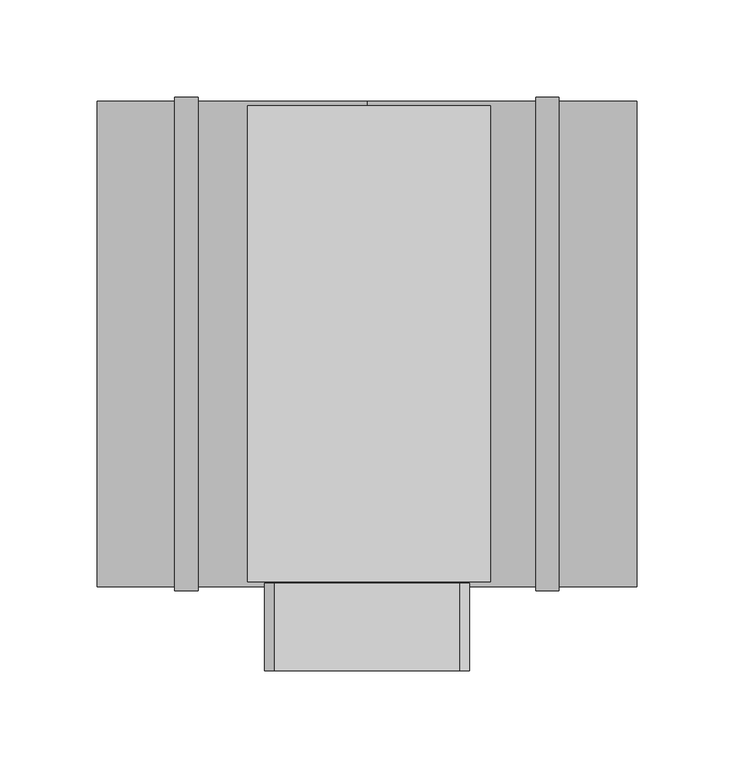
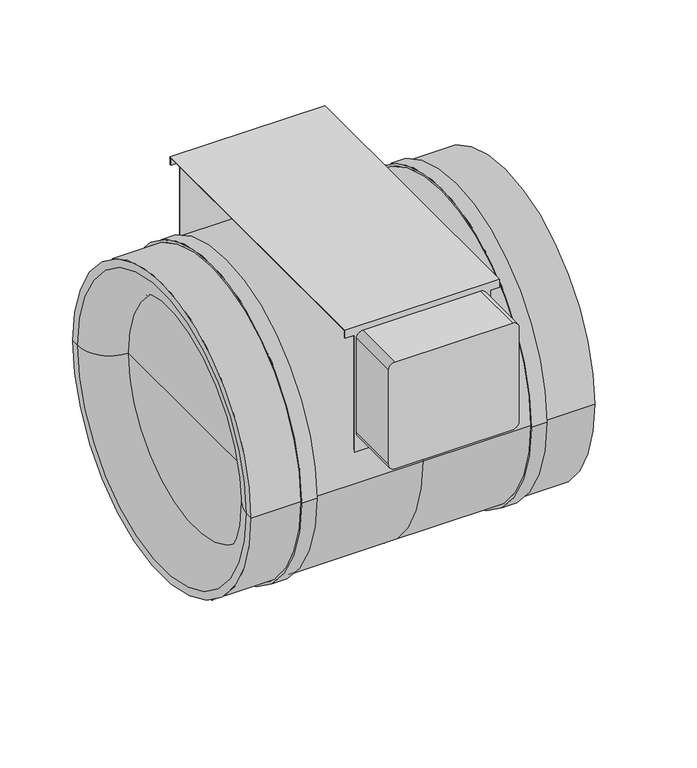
"""IFC4 building model written with IfcOpenShell, lengths in millimetres: unitary equipment geometry, VE-Wentylator-ParaForma-Harmann-JETTEC-Nawiewny : 250/1700S."""

from ifc_helpers import new_model, si_unit, point, frame, frame_2d, origin, place, context, project, spatial, polyline, circle_curve, ellipse_curve, trimmed, segment, composite_curve, outline, extrude, source, transform, mapped, element, save
from ifc_brep_helpers import plane_surface, cylinder_surface, revolved_surface, advanced_brep


def unitary_equipment_61d8eaaf(model_context):
    return source(origin(), model_context, "Body", "SolidModel", [
        extrude(outline(composite_curve([segment(polyline([(36.6, -47.7), (36.6, 47.7)]), True, "CONTINUOUS"), segment(trimmed(circle_curve(frame_2d((41.6, 47.7)), 5.0), [point((36.6, 47.7))], [point((41.6, 52.7))], False, "CARTESIAN"), True, "CONTINUOUS"), segment(polyline([(41.6, 52.7), (122.6, 52.7)]), True, "CONTINUOUS"), segment(trimmed(circle_curve(frame_2d((122.6, 47.7)), 5.0), [point((122.6, 52.7))], [point((127.6, 47.7))], False, "CARTESIAN"), True, "CONTINUOUS"), segment(polyline([(127.6, 47.7), (127.6, -47.7)]), True, "CONTINUOUS"), segment(trimmed(circle_curve(frame_2d((122.6, -47.7)), 5.0), [point((127.6, -47.7))], [point((122.6, -52.7))], False, "CARTESIAN"), True, "CONTINUOUS"), segment(polyline([(122.6, -52.7), (41.6, -52.7)]), True, "CONTINUOUS"), segment(trimmed(circle_curve(frame_2d((41.6, -47.7)), 5.0), [point((41.6, -52.7))], [point((36.6, -47.7))], False, "CARTESIAN"), True, "CONTINUOUS")], self_intersect=False)), frame((0.0, -168.3, 0.0), z_axis=(0.0, 1.0, 0.0), x_axis=(0.0, 0.0, 1.0)), (0.0, 0.0, 1.0), 45.0),
        advanced_brep(
        [(63.5, 122.5, 125.0), (63.5, 122.5, 131.8), (63.5, -122.5, 131.8), (63.5, -122.5, 125.0), (63.5, -121.7, 125.0), (63.5, -121.7, 131.0), (63.5, 121.7, 131.0), (63.5, 121.7, 125.0), (56.0, 121.7, 125.0), (56.0, 122.5, 125.0), (-61.5, 121.7, 131.0), (-61.5, 121.7, 125.0), (-54.0, 121.7, 125.0), (-54.0, 121.7, 28.5326129), (56.0, 121.7, 28.5326129), (-61.5, -121.7, 131.0), (56.0, -121.7, 125.0), (56.0, -121.7, 28.5326129), (-54.0, -121.7, 28.5326129), (-54.0, -121.7, 125.0), (-61.5, -121.7, 125.0), (56.0, -122.5, 125.0), (-61.5, -122.5, 131.8), (-61.5, -122.5, 125.0), (-54.0, -122.5, 125.0), (-54.0, -122.5, 24.8746859), (56.0, -122.5, 24.8746859), (-61.5, 122.5, 131.8), (56.0, 122.5, 24.8746859), (-54.0, 122.5, 24.8746859), (-54.0, 122.5, 125.0), (-61.5, 122.5, 125.0)],
        [
            (0, 1),
            (1, 2),
            (2, 3),
            (3, 4),
            (4, 5),
            (5, 6),
            (6, 7),
            (7, 0),
            (7, 8),
            (8, 9),
            (9, 0),
            (6, 10),
            (10, 11),
            (11, 12),
            (12, 13),
            (13, 14),
            (14, 8),
            (5, 15),
            (15, 10),
            (4, 16),
            (16, 17),
            (17, 18),
            (18, 19),
            (19, 20),
            (20, 15),
            (3, 21),
            (21, 16),
            (2, 22),
            (22, 23),
            (23, 24),
            (24, 25),
            (25, 26),
            (26, 21),
            (1, 27),
            (27, 22),
            (9, 28),
            (28, 29),
            (29, 30),
            (30, 31),
            (31, 27),
            (29, 13, circle_curve(frame((-54.0, 0.0, 0.0), z_axis=(1.0, 0.0, 0.0), x_axis=(0.0, 1.0, 0.0)), 125.0)),
            (12, 30),
            (18, 25, circle_curve(frame((-54.0, 0.0, 0.0), z_axis=(1.0, 0.0, 0.0), x_axis=(0.0, 1.0, 0.0)), 125.0)),
            (24, 19),
            (14, 28, circle_curve(frame((56.0, 0.0, 0.0), z_axis=(-1.0, 0.0, 0.0), x_axis=(0.0, 1.0, 0.0)), 125.0)),
            (26, 17, circle_curve(frame((56.0, 0.0, 0.0), z_axis=(-1.0, 0.0, 0.0), x_axis=(0.0, 1.0, 0.0)), 125.0)),
            (31, 11),
            (20, 23),
        ],
        [
            plane_surface(frame((63.5, 0.0, 0.0), z_axis=(1.0, 0.0, 0.0), x_axis=(0.0, 0.0, 1.0))),
            plane_surface(frame((56.0, 122.5, 125.0), z_axis=(0.0, 0.0, -1.0), x_axis=(1.0, 0.0, 0.0))),
            plane_surface(frame((56.0, 121.7, 125.0), z_axis=(0.0, -1.0, 0.0), x_axis=(1.0, 0.0, 0.0))),
            plane_surface(frame((56.0, -113.0382235, 131.0), z_axis=(0.0, 0.0, -1.0), x_axis=(1.0, 0.0, 0.0))),
            plane_surface(frame((56.0, -121.7, 131.0), z_axis=(0.0, 1.0, 0.0), x_axis=(1.0, 0.0, 0.0))),
            plane_surface(frame((56.0, -121.7, 125.0), z_axis=(0.0, 0.0, -1.0), x_axis=(1.0, 0.0, 0.0))),
            plane_surface(frame((56.0, -122.5, 125.0), z_axis=(0.0, -1.0, 0.0), x_axis=(1.0, 0.0, 0.0))),
            plane_surface(frame((56.0, 112.5, 131.8), z_axis=(0.0, 0.0, 1.0), x_axis=(1.0, 0.0, 0.0))),
            plane_surface(frame((56.0, 122.5, 131.8), z_axis=(0.0, 1.0, 0.0), x_axis=(1.0, 0.0, 0.0))),
            plane_surface(frame((-54.0, 0.0, 0.0), z_axis=(-1.0, 0.0, 0.0), x_axis=(0.0, 0.0, 1.0))),
            plane_surface(frame((56.0, 0.0, 0.0), z_axis=(1.0, 0.0, 0.0), x_axis=(0.0, 0.0, 1.0))),
            revolved_surface(polyline([(-54.0, 125.0, 0.0), (56.0, 125.0, 0.0)]), (-54.0, 0.0, 0.0), (-1.0, 0.0, 0.0)),
            plane_surface(frame((-61.5, 0.0, 0.0), z_axis=(-1.0, 0.0, 0.0), x_axis=(0.0, 0.0, 1.0))),
            plane_surface(frame((-61.5, 122.5, 125.0), z_axis=(0.0, 0.0, -1.0), x_axis=(1.0, 0.0, 0.0))),
            plane_surface(frame((-61.5, -121.7, 125.0), z_axis=(0.0, 0.0, -1.0), x_axis=(1.0, 0.0, 0.0))),
        ],
        [
            (0, [[1, 2, 3, 4, 5, 6, 7, 8]]),
            (1, [[-8, 9, 10, 11]]),
            (2, [[-7, 12, 13, 14, 15, 16, 17, -9]]),
            (3, [[-12, -6, 18, 19]]),
            (4, [[-18, -5, 20, 21, 22, 23, 24, 25]]),
            (5, [[-4, 26, 27, -20]]),
            (6, [[-3, 28, 29, 30, 31, 32, 33, -26]]),
            (7, [[-28, -2, 34, 35]]),
            (8, [[-34, -1, -11, 36, 37, 38, 39, 40]]),
            (9, [[41, -15, 42, -38]]),
            (9, [[43, -31, 44, -23]]),
            (10, [[45, -36, -10, -17]]),
            (10, [[46, -21, -27, -33]]),
            (11, [[-41, -37, -45, -16]]),
            (11, [[-43, -22, -46, -32]]),
            (12, [[47, -13, -19, -25, 48, -29, -35, -40]]),
            (13, [[-47, -39, -42, -14]]),
            (14, [[-48, -24, -44, -30]]),
        ],
    ),
        advanced_brep(
        [(-87.0, 125.0, 0.0), (0.0, 125.0, 0.0), (0.0, -125.0, 0.0), (-87.0, -125.0, 0.0), (-139.0, -125.0, 0.0), (-139.0, 125.0, 0.0), (-99.0, 125.0, 0.0), (-99.0, -125.0, 0.0), (-139.0, -118.5, 0.0), (-139.0, 118.5, 0.0), (-113.0, -92.5, 0.0), (-113.0, 92.5, 0.0), (-113.0, 0.0, 0.0), (139.0, -125.0, 0.0), (139.0, 125.0, 0.0), (139.0, 0.0, 0.0), (99.0, -125.0, 0.0), (99.0, 125.0, 0.0), (87.0, 125.0, 0.0), (87.0, -125.0, 0.0), (-87.0, -127.0, 0.0), (-87.0, 127.0, 0.0), (-99.0, -127.0, 0.0), (-99.0, 127.0, 0.0), (99.0, -127.0, 0.0), (99.0, 127.0, 0.0), (87.0, -127.0, 0.0), (87.0, 127.0, 0.0)],
        [
            (0, 1),
            (1, 2, circle_curve(frame((0.0, 0.0, 0.0), z_axis=(-1.0, 0.0, 0.0), x_axis=(0.0, 1.0, 0.0)), 125.0)),
            (2, 3),
            (3, 0, circle_curve(frame((-87.0, 0.0, 0.0), z_axis=(1.0, 0.0, 0.0), x_axis=(0.0, 1.0, 0.0)), 125.0)),
            (0, 3, circle_curve(frame((-87.0, 0.0, 0.0), z_axis=(1.0, 0.0, 0.0), x_axis=(0.0, 1.0, 0.0)), 125.0)),
            (2, 1, circle_curve(frame((0.0, 0.0, 0.0), z_axis=(-1.0, 0.0, 0.0), x_axis=(0.0, 1.0, 0.0)), 125.0)),
            (4, 5, circle_curve(frame((-139.0, 0.0, 0.0), z_axis=(1.0, 0.0, 0.0), x_axis=(0.0, 1.0, 0.0)), 125.0)),
            (5, 6),
            (6, 7, circle_curve(frame((-99.0, 0.0, 0.0), z_axis=(-1.0, 0.0, 0.0), x_axis=(0.0, 1.0, 0.0)), 125.0)),
            (7, 4),
            (5, 4, circle_curve(frame((-139.0, 0.0, 0.0), z_axis=(1.0, 0.0, 0.0), x_axis=(0.0, 1.0, 0.0)), 125.0)),
            (7, 6, circle_curve(frame((-99.0, 0.0, 0.0), z_axis=(-1.0, 0.0, 0.0), x_axis=(0.0, 1.0, 0.0)), 125.0)),
            (4, 8),
            (8, 9, circle_curve(frame((-139.0, 0.0, 0.0), z_axis=(1.0, 0.0, 0.0), x_axis=(0.0, 1.0, 0.0)), 118.5)),
            (9, 5),
            (9, 8, circle_curve(frame((-139.0, 0.0, 0.0), z_axis=(1.0, 0.0, 0.0), x_axis=(0.0, 1.0, 0.0)), 118.5)),
            (8, 10, circle_curve(frame((-113.0, -118.5, 0.0), z_axis=(0.0, 0.0, -1.0), x_axis=(1.0, 0.0, 0.0)), 26.0)),
            (10, 11, circle_curve(frame((-113.0, 0.0, 0.0), z_axis=(1.0, 0.0, 0.0), x_axis=(0.0, 1.0, 0.0)), 92.5)),
            (11, 9, circle_curve(frame((-113.0, 118.5, 0.0), z_axis=(0.0, 0.0, -1.0), x_axis=(1.0, 0.0, 0.0)), 26.0)),
            (11, 10, circle_curve(frame((-113.0, 0.0, 0.0), z_axis=(1.0, 0.0, 0.0), x_axis=(0.0, 1.0, 0.0)), 92.5)),
            (10, 12),
            (12, 11),
            (13, 14, circle_curve(frame((139.0, 0.0, 0.0), z_axis=(1.0, 0.0, 0.0), x_axis=(0.0, 1.0, 0.0)), 125.0)),
            (14, 15),
            (15, 13),
            (14, 13, circle_curve(frame((139.0, 0.0, 0.0), z_axis=(1.0, 0.0, 0.0), x_axis=(0.0, 1.0, 0.0)), 125.0)),
            (13, 16),
            (16, 17, circle_curve(frame((99.0, 0.0, 0.0), z_axis=(1.0, 0.0, 0.0), x_axis=(0.0, 1.0, 0.0)), 125.0)),
            (17, 14),
            (17, 16, circle_curve(frame((99.0, 0.0, 0.0), z_axis=(1.0, 0.0, 0.0), x_axis=(0.0, 1.0, 0.0)), 125.0)),
            (1, 18),
            (18, 19, circle_curve(frame((87.0, 0.0, 0.0), z_axis=(-1.0, 0.0, 0.0), x_axis=(0.0, 1.0, 0.0)), 125.0)),
            (19, 2),
            (19, 18, circle_curve(frame((87.0, 0.0, 0.0), z_axis=(-1.0, 0.0, 0.0), x_axis=(0.0, 1.0, 0.0)), 125.0)),
            (20, 21, circle_curve(frame((-87.0, 0.0, 0.0), z_axis=(1.0, 0.0, 0.0), x_axis=(0.0, 1.0, 0.0)), 127.0)),
            (21, 0),
            (3, 20),
            (21, 20, circle_curve(frame((-87.0, 0.0, 0.0), z_axis=(1.0, 0.0, 0.0), x_axis=(0.0, 1.0, 0.0)), 127.0)),
            (20, 22),
            (22, 23, circle_curve(frame((-99.0, 0.0, 0.0), z_axis=(1.0, 0.0, 0.0), x_axis=(0.0, 1.0, 0.0)), 127.0)),
            (23, 21),
            (23, 22, circle_curve(frame((-99.0, 0.0, 0.0), z_axis=(1.0, 0.0, 0.0), x_axis=(0.0, 1.0, 0.0)), 127.0)),
            (22, 7),
            (6, 23),
            (24, 25, circle_curve(frame((99.0, 0.0, 0.0), z_axis=(1.0, 0.0, 0.0), x_axis=(0.0, 1.0, 0.0)), 127.0)),
            (25, 17),
            (16, 24),
            (25, 24, circle_curve(frame((99.0, 0.0, 0.0), z_axis=(1.0, 0.0, 0.0), x_axis=(0.0, 1.0, 0.0)), 127.0)),
            (24, 26),
            (26, 27, circle_curve(frame((87.0, 0.0, 0.0), z_axis=(1.0, 0.0, 0.0), x_axis=(0.0, 1.0, 0.0)), 127.0)),
            (27, 25),
            (27, 26, circle_curve(frame((87.0, 0.0, 0.0), z_axis=(1.0, 0.0, 0.0), x_axis=(0.0, 1.0, 0.0)), 127.0)),
            (26, 19),
            (18, 27),
        ],
        [
            cylinder_surface(frame((-113.0, 0.0, 0.0), z_axis=(-1.0, 0.0, 0.0), x_axis=(0.0, 1.0, 0.0)), 125.0),
            plane_surface(frame((-139.0, 0.0, 0.0), z_axis=(-1.0, 0.0, 0.0), x_axis=(0.0, 1.0, 0.0))),
            revolved_surface(trimmed(ellipse_curve(frame((-113.0, 118.5, 0.0), z_axis=(0.0, 0.0, 1.0), x_axis=(1.0, 0.0, 0.0)), 26.0, 26.0), [point((-139.0, 118.5, 0.0))], [point((-113.0, 92.5, 0.0))], True, "CARTESIAN"), (-113.0, 0.0, 0.0), (-1.0, 0.0, 0.0)),
            plane_surface(frame((-113.0, 0.0, 0.0), z_axis=(-1.0, 0.0, 0.0), x_axis=(0.0, 1.0, 0.0))),
            plane_surface(frame((139.0, 0.0, 0.0), z_axis=(1.0, 0.0, 0.0), x_axis=(0.0, 1.0, 0.0))),
            cylinder_surface(frame((0.0, 0.0, 0.0), z_axis=(-1.0, 0.0, 0.0), x_axis=(0.0, 1.0, 0.0)), 125.0),
            plane_surface(frame((-87.0, 0.0, 0.0), z_axis=(1.0, 0.0, 0.0), x_axis=(0.0, 1.0, 0.0))),
            cylinder_surface(frame((-99.0, 0.0, 0.0), z_axis=(-1.0, 0.0, 0.0), x_axis=(0.0, 1.0, 0.0)), 127.0),
            plane_surface(frame((-99.0, 0.0, 0.0), z_axis=(-1.0, 0.0, 0.0), x_axis=(0.0, 1.0, 0.0))),
            plane_surface(frame((99.0, 0.0, 0.0), z_axis=(1.0, 0.0, 0.0), x_axis=(0.0, 1.0, 0.0))),
            plane_surface(frame((87.0, 0.0, 0.0), z_axis=(-1.0, 0.0, 0.0), x_axis=(0.0, 1.0, 0.0))),
        ],
        [
            (0, [[1, 2, 3, 4]]),
            (0, [[-1, 5, -3, 6]]),
            (0, [[7, 8, 9, 10]]),
            (0, [[-8, 11, -10, 12]]),
            (1, [[-7, 13, 14, 15]]),
            (1, [[-11, -15, 16, -13]]),
            (2, [[-14, 17, 18, 19]]),
            (2, [[-16, -19, 20, -17]]),
            (3, [[-18, 21, 22]]),
            (3, [[-20, -22, -21]]),
            (4, [[23, 24, 25]]),
            (4, [[-24, 26, -25]]),
            (5, [[-23, 27, 28, 29]]),
            (5, [[-26, -29, 30, -27]]),
            (5, [[31, 32, 33, -2]]),
            (5, [[-31, -6, -33, 34]]),
            (6, [[35, 36, -4, 37]]),
            (6, [[38, -37, -5, -36]]),
            (7, [[-35, 39, 40, 41]]),
            (7, [[-38, -41, 42, -39]]),
            (8, [[-40, 43, -9, 44]]),
            (8, [[-42, -44, -12, -43]]),
            (9, [[45, 46, -28, 47]]),
            (9, [[48, -47, -30, -46]]),
            (7, [[-45, 49, 50, 51]]),
            (7, [[-48, -51, 52, -49]]),
            (10, [[-50, 53, -32, 54]]),
            (10, [[-52, -54, -34, -53]]),
        ],
    ),
    ])


if __name__ == "__main__":
    model = new_model("IFC4")
    model_context = context("Model", 3, world=origin())
    ifc_project = project(units=[si_unit("LENGTHUNIT", "METRE", prefix="MILLI")], contexts=[model_context])
    site = spatial("IfcSite", under=ifc_project)
    building = spatial("IfcBuilding", under=site)
    placement = place(None, origin())
    unitary_equipment_shape = unitary_equipment_61d8eaaf(model_context)
    element("IfcUnitaryEquipment", 1, ObjectType="VE-Wentylator-ParaForma-Harmann-JETTEC-Nawiewny : 250/1700S", at=placement, inside=building, context=model_context, shape_type="MappedRepresentation", body=[
        mapped(unitary_equipment_shape, transform((0.0, 0.0, 0.0), x_axis=(1.0, 0.0, 0.0), y_axis=(0.0, 1.0, 0.0), z_axis=(0.0, 0.0, 1.0))),
    ])
    save(model, "model.ifc")
